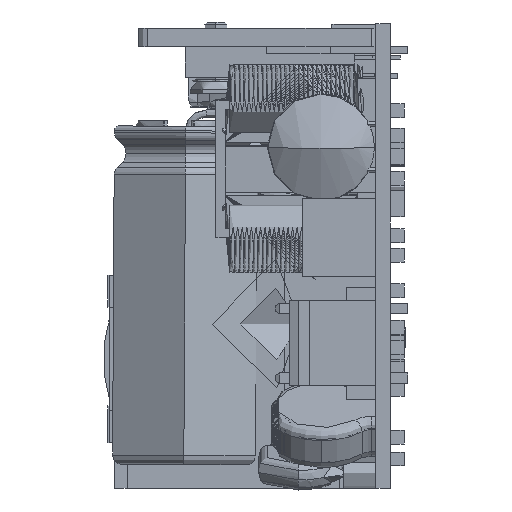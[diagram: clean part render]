
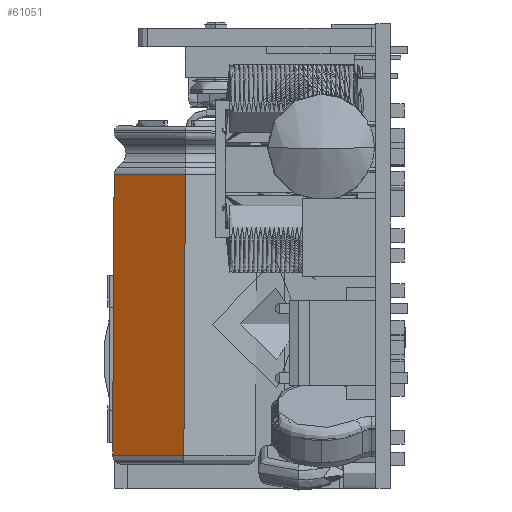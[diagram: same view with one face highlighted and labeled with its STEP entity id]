
A CAD part, left-side view. The second image highlights one B-rep face of the part: STEP entity #61051.
In plain terms, the highlighted cylindrical face has radius 9 mm (diameter 18 mm), a partial arc.
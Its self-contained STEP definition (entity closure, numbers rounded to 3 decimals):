
#1737 = FACE_OUTER_BOUND ( 'NONE', #192895, .T. ) ;
#13212 = CIRCLE ( 'NONE', #27129, 9. ) ;
#13607 = AXIS2_PLACEMENT_3D ( 'NONE', #39266, #120831, #179431 ) ;
#21524 = CARTESIAN_POINT ( 'NONE',  ( -9., 0., -36. ) ) ;
#22808 = ORIENTED_EDGE ( 'NONE', *, *, #297190, .T. ) ;
#27129 = AXIS2_PLACEMENT_3D ( 'NONE', #217833, #43346, #247078 ) ;
#33922 = CARTESIAN_POINT ( 'NONE',  ( 9., 0., -5.281 ) ) ;
#35187 = ORIENTED_EDGE ( 'NONE', *, *, #56921, .T. ) ;
#39266 = CARTESIAN_POINT ( 'NONE',  ( 0., 0., -29.5 ) ) ;
#43346 = DIRECTION ( 'NONE',  ( 0., 0., 1. ) ) ;
#56921 = EDGE_CURVE ( 'NONE', #362242, #270678, #234933, .T. ) ;
#58220 = DIRECTION ( 'NONE',  ( 0., 0., 1. ) ) ;
#61051 = ADVANCED_FACE ( 'NONE', ( #1737 ), #302516, .T. ) ;
#70796 = VECTOR ( 'NONE', #58220, 1000. ) ;
#71988 = EDGE_CURVE ( 'NONE', #339830, #362242, #13212, .T. ) ;
#77417 = CARTESIAN_POINT ( 'NONE',  ( 9., 0., -36. ) ) ;
#89736 = DIRECTION ( 'NONE',  ( 0., 0., -1. ) ) ;
#101986 = EDGE_CURVE ( 'NONE', #339830, #336211, #246283, .T. ) ;
#120802 = AXIS2_PLACEMENT_3D ( 'NONE', #264252, #89736, #293512 ) ;
#120831 = DIRECTION ( 'NONE',  ( 0., 0., 1. ) ) ;
#133754 = ORIENTED_EDGE ( 'NONE', *, *, #101986, .F. ) ;
#168340 = CIRCLE ( 'NONE', #120802, 9. ) ;
#168584 = CARTESIAN_POINT ( 'NONE',  ( -9., 0., -5.281 ) ) ;
#168841 = VECTOR ( 'NONE', #237321, 1000. ) ;
#179431 = DIRECTION ( 'NONE',  ( 1., 0., 0. ) ) ;
#192895 = EDGE_LOOP ( 'NONE', ( #207811, #35187, #22808, #133754 ) ) ;
#203457 = CARTESIAN_POINT ( 'NONE',  ( -9., 0., -29.5 ) ) ;
#207811 = ORIENTED_EDGE ( 'NONE', *, *, #71988, .T. ) ;
#217833 = CARTESIAN_POINT ( 'NONE',  ( 0., 0., -36. ) ) ;
#234933 = LINE ( 'NONE', #203457, #70796 ) ;
#237321 = DIRECTION ( 'NONE',  ( 0., 0., 1. ) ) ;
#246283 = LINE ( 'NONE', #294595, #168841 ) ;
#247078 = DIRECTION ( 'NONE',  ( -1., 0., 0. ) ) ;
#264252 = CARTESIAN_POINT ( 'NONE',  ( 0., 0., -5.281 ) ) ;
#270678 = VERTEX_POINT ( 'NONE', #168584 ) ;
#293512 = DIRECTION ( 'NONE',  ( -1., 0., 0. ) ) ;
#294595 = CARTESIAN_POINT ( 'NONE',  ( 9., 0., -29.5 ) ) ;
#297190 = EDGE_CURVE ( 'NONE', #270678, #336211, #168340, .T. ) ;
#302516 = CYLINDRICAL_SURFACE ( 'NONE', #13607, 9. ) ;
#336211 = VERTEX_POINT ( 'NONE', #33922 ) ;
#339830 = VERTEX_POINT ( 'NONE', #77417 ) ;
#362242 = VERTEX_POINT ( 'NONE', #21524 ) ;
